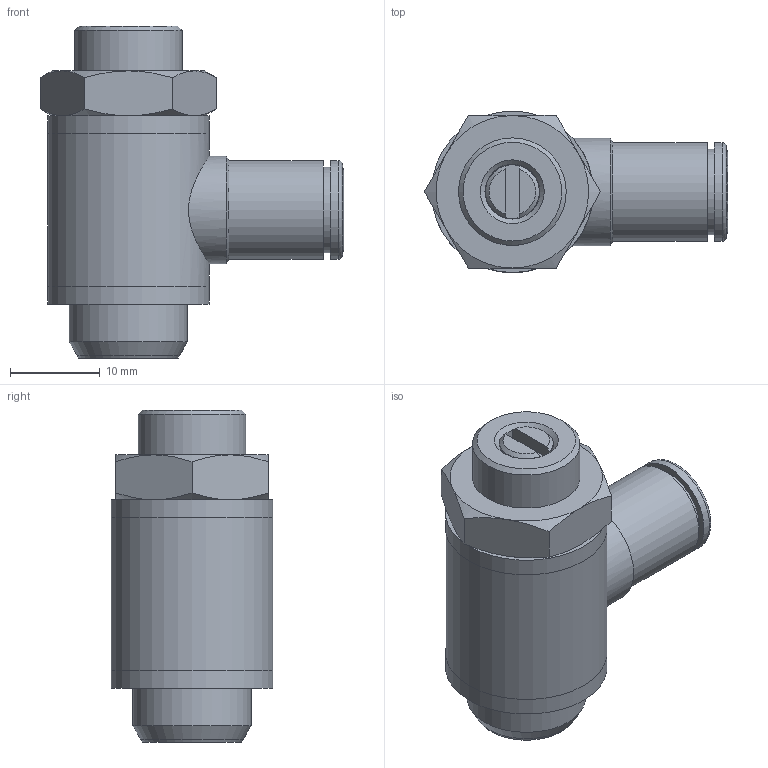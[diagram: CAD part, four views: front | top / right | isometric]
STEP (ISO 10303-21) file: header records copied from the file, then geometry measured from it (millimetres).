
FILE_DESCRIPTION(('Bauteilbeschreibung','HiCAD-Model','HiCAD-STEP-TRANSLATION','Bauteilbeschreibung'),'2;1');
FILE_NAME('B:/ABGLEICH/ZEICHNUNGEN/STEP FÜR INTERNET/STEP/IPSO 029/304806_IPSO_029_6_1-4.STP','2012-05-04T11:54:40+00:00',('Konstrukteur'),('Konstrukteur Firma GmbH'),' HiCAD neXt 2008, Step 3.1.1401.2J ','HiCAD neXt 2008','confidential');
FILE_SCHEMA(('AUTOMOTIVE_DESIGN { 1 2 10303 214 0 1 1 1 }'));
Length unit declared in the file: millimetre
Products named in the file (10): A04806_IPSO_029_6_1_4; A00033; A00043_DTG__1_4_UNV ; A04002_K_RPER; A040020K0RPER; G 1_4; A04002_SPINDEL; A04022_BUCHSE; DR6_1_NEU; R201206_N
Assembly tree (9 placements, depth 3):
  A04806_IPSO_029_6_1_4
    A00033
    A00043_DTG__1_4_UNV 
    A04002_K_RPER
    A040020K0RPER
      G 1_4
    A04002_SPINDEL
    A04022_BUCHSE
    DR6_1_NEU
    R201206_N
Bounding box: 33.81 x 18 x 37 mm (x, y, z)
Volume: 7620.3 mm3; surface area: 8978.3 mm2
Topology: 8 solids, 8 shells, 140 faces, 281 edges, 172 vertices
Faces by surface type: plane 50, cylinder 45, cone 42, torus 3
Full cylindrical faces by diameter (mm): 4.7 x1, 5 x1, 5.5 x1, 6 x1, 6.1 x3, 6.2 x1, 7.4 x1, 7.5 x1, 7.6 x1, 7.7 x1, 8.3 x2, 8.9 x1, 9 x2, 9.1 x1, 9.4 x1, 9.5 x2, 9.6 x1, 10 x1, 10.2 x1, 11 x2, 11.2 x1, 11.445 x2, 12 x2, 12.95 x1, 13.157 x1, 13.3 x1, 13.4 x1, 13.5 x1, 18 x3
Entity records: 5664 total; most frequent: CARTESIAN_POINT 1877, DIRECTION 614, ORIENTED_EDGE 384, AXIS2_PLACEMENT_3D 294, EDGE_LOOP 244, COLOUR_RGB 198, PRESENTATION_STYLE_ASSIGNMENT 198, EDGE_CURVE 192
